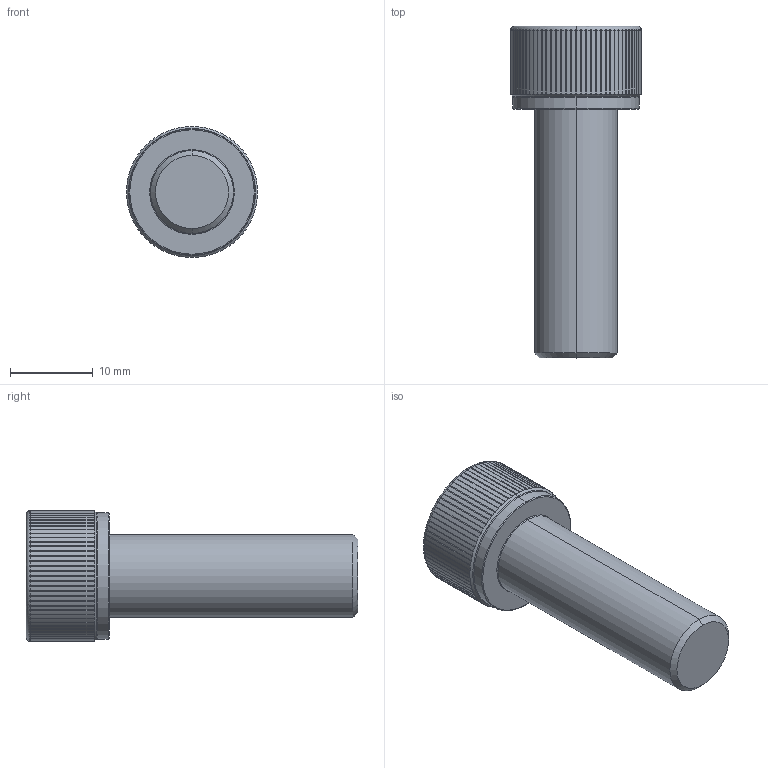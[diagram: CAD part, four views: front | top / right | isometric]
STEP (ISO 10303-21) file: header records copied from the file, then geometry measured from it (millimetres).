
FILE_DESCRIPTION (( 'STEP AP203' ), '1' );
FILE_NAME ('LGDT-304-M10x30.STEP', '2026-08-10T07:19:40', ( '' ), ( '' ), 'SwSTEP 2.0', 'SolidWorks 2020', '' );
FILE_SCHEMA (( 'CONFIG_CONTROL_DESIGN' ));
Length unit declared in the file: millimetre
Products named in the file (1): LGDT-304-M10x30
Bounding box: 15.8 x 40 x 15.8 mm (x, y, z)
Volume: 3951.3 mm3; surface area: 1959.6 mm2
Topology: 1 solids, 1 shells, 204 faces, 576 edges, 376 vertices
Faces by surface type: cylinder 175, cone 11, plane 10, torus 8
Entity records: 8367 total; most frequent: CARTESIAN_POINT 3208, ORIENTED_EDGE 1152, DIRECTION 988, EDGE_CURVE 576, AXIS2_PLACEMENT_3D 398, VERTEX_POINT 376, EDGE_LOOP 206, ADVANCED_FACE 204
